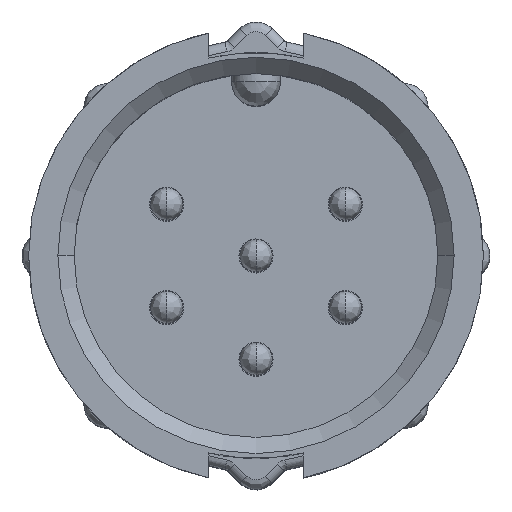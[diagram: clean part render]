
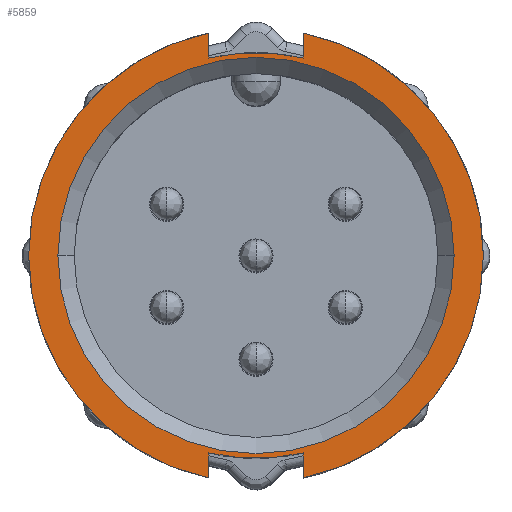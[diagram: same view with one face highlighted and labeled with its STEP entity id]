
A CAD part, top view. The second image highlights one B-rep face of the part: STEP entity #5859.
In plain terms, the highlighted planar face has unit normal (0, 0, 1).
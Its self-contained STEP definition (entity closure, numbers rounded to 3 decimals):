
#233 = CARTESIAN_POINT ( 'NONE',  ( 1.45, 0., 0. ) ) ;
#306 = EDGE_LOOP ( 'NONE', ( #16290, #14472, #7985, #14876, #1186, #8701, #2536, #5779 ) ) ;
#359 = CARTESIAN_POINT ( 'NONE',  ( -7.286, -7.122, 0. ) ) ;
#431 = VERTEX_POINT ( 'NONE', #9544 ) ;
#520 = CIRCLE ( 'NONE', #4874, 7. ) ;
#560 = EDGE_CURVE ( 'NONE', #16097, #7736, #9177, .T. ) ;
#873 = VECTOR ( 'NONE', #8069, 1000. ) ;
#929 = DIRECTION ( 'NONE',  ( 0., 0., -1. ) ) ;
#1178 = CARTESIAN_POINT ( 'NONE',  ( -1.45, 6.079, 0. ) ) ;
#1186 = ORIENTED_EDGE ( 'NONE', *, *, #8258, .F. ) ;
#1382 = CARTESIAN_POINT ( 'NONE',  ( 0., 0., 0. ) ) ;
#1529 = DIRECTION ( 'NONE',  ( 0., -1., 0. ) ) ;
#1678 = DIRECTION ( 'NONE',  ( 0., 0., 1. ) ) ;
#1995 = CIRCLE ( 'NONE', #15607, 6.1 ) ;
#2206 = CARTESIAN_POINT ( 'NONE',  ( 0., 0., 0. ) ) ;
#2362 = ORIENTED_EDGE ( 'NONE', *, *, #10158, .F. ) ;
#2497 = DIRECTION ( 'NONE',  ( 1., 0., 0. ) ) ;
#2536 = ORIENTED_EDGE ( 'NONE', *, *, #9440, .F. ) ;
#2650 = AXIS2_PLACEMENT_3D ( 'NONE', #3231, #7140, #12361 ) ;
#2952 = EDGE_CURVE ( 'NONE', #9916, #6370, #10953, .T. ) ;
#3073 = VECTOR ( 'NONE', #4719, 1000. ) ;
#3176 = CARTESIAN_POINT ( 'NONE',  ( 6.1, 0., 0. ) ) ;
#3186 = CARTESIAN_POINT ( 'NONE',  ( -1.45, 0., 0. ) ) ;
#3231 = CARTESIAN_POINT ( 'NONE',  ( 0., 0., 0. ) ) ;
#3509 = CIRCLE ( 'NONE', #11692, 6.1 ) ;
#3585 = DIRECTION ( 'NONE',  ( 0., 1., 0. ) ) ;
#3774 = DIRECTION ( 'NONE',  ( 0., 0., -1. ) ) ;
#4209 = CARTESIAN_POINT ( 'NONE',  ( -6.1, 0., 0. ) ) ;
#4284 = FACE_OUTER_BOUND ( 'NONE', #306, .T. ) ;
#4334 = LINE ( 'NONE', #233, #873 ) ;
#4464 = CARTESIAN_POINT ( 'NONE',  ( 1.45, 6.079, 0. ) ) ;
#4719 = DIRECTION ( 'NONE',  ( 0., -1., 0. ) ) ;
#4737 = CIRCLE ( 'NONE', #6077, 6.25 ) ;
#4831 = CARTESIAN_POINT ( 'NONE',  ( -1.45, -6.079, 0. ) ) ;
#4855 = EDGE_CURVE ( 'NONE', #7736, #8710, #10832, .T. ) ;
#4874 = AXIS2_PLACEMENT_3D ( 'NONE', #1382, #3774, #2497 ) ;
#4945 = DIRECTION ( 'NONE',  ( 1., 0., 0. ) ) ;
#5289 = CARTESIAN_POINT ( 'NONE',  ( 0., 0., 0. ) ) ;
#5553 = DIRECTION ( 'NONE',  ( 1., 0., 0. ) ) ;
#5779 = ORIENTED_EDGE ( 'NONE', *, *, #2952, .F. ) ;
#5859 = ADVANCED_FACE ( 'NONE', ( #9399, #4284 ), #9658, .T. ) ;
#6077 = AXIS2_PLACEMENT_3D ( 'NONE', #2206, #929, #11512 ) ;
#6370 = VERTEX_POINT ( 'NONE', #1178 ) ;
#6463 = EDGE_CURVE ( 'NONE', #7790, #16097, #4334, .T. ) ;
#7128 = AXIS2_PLACEMENT_3D ( 'NONE', #359, #13150, #5553 ) ;
#7140 = DIRECTION ( 'NONE',  ( 0., 0., -1. ) ) ;
#7736 = VERTEX_POINT ( 'NONE', #4831 ) ;
#7790 = VERTEX_POINT ( 'NONE', #15833 ) ;
#7914 = DIRECTION ( 'NONE',  ( 1., 0., 0. ) ) ;
#7985 = ORIENTED_EDGE ( 'NONE', *, *, #560, .F. ) ;
#8069 = DIRECTION ( 'NONE',  ( 0., 1., 0. ) ) ;
#8186 = EDGE_CURVE ( 'NONE', #9963, #431, #11353, .T. ) ;
#8258 = EDGE_CURVE ( 'NONE', #431, #7790, #16546, .T. ) ;
#8489 = CARTESIAN_POINT ( 'NONE',  ( -1.45, -6.848, 0. ) ) ;
#8701 = ORIENTED_EDGE ( 'NONE', *, *, #8186, .F. ) ;
#8710 = VERTEX_POINT ( 'NONE', #8489 ) ;
#8951 = DIRECTION ( 'NONE',  ( 0., 0., 1. ) ) ;
#9173 = DIRECTION ( 'NONE',  ( 1., 0., 0. ) ) ;
#9177 = CIRCLE ( 'NONE', #2650, 6.25 ) ;
#9268 = VERTEX_POINT ( 'NONE', #4209 ) ;
#9399 = FACE_BOUND ( 'NONE', #13400, .T. ) ;
#9440 = EDGE_CURVE ( 'NONE', #6370, #9963, #4737, .T. ) ;
#9544 = CARTESIAN_POINT ( 'NONE',  ( 1.45, 6.848, 0. ) ) ;
#9658 = PLANE ( 'NONE',  #7128 ) ;
#9820 = EDGE_CURVE ( 'NONE', #8710, #9916, #520, .T. ) ;
#9916 = VERTEX_POINT ( 'NONE', #11967 ) ;
#9963 = VERTEX_POINT ( 'NONE', #4464 ) ;
#10158 = EDGE_CURVE ( 'NONE', #9268, #16702, #3509, .T. ) ;
#10287 = CARTESIAN_POINT ( 'NONE',  ( 1.45, -6.079, 0. ) ) ;
#10532 = VECTOR ( 'NONE', #3585, 1000. ) ;
#10832 = LINE ( 'NONE', #16036, #11825 ) ;
#10953 = LINE ( 'NONE', #3186, #3073 ) ;
#11353 = LINE ( 'NONE', #11686, #10532 ) ;
#11436 = CARTESIAN_POINT ( 'NONE',  ( 0., 0., 0. ) ) ;
#11512 = DIRECTION ( 'NONE',  ( 0., -1., 0. ) ) ;
#11686 = CARTESIAN_POINT ( 'NONE',  ( 1.45, 0., 0. ) ) ;
#11692 = AXIS2_PLACEMENT_3D ( 'NONE', #5289, #8951, #7914 ) ;
#11825 = VECTOR ( 'NONE', #1529, 1000. ) ;
#11967 = CARTESIAN_POINT ( 'NONE',  ( -1.45, 6.848, 0. ) ) ;
#12361 = DIRECTION ( 'NONE',  ( 0., -1., 0. ) ) ;
#12984 = AXIS2_PLACEMENT_3D ( 'NONE', #11436, #16735, #4945 ) ;
#13150 = DIRECTION ( 'NONE',  ( 0., 0., 1. ) ) ;
#13400 = EDGE_LOOP ( 'NONE', ( #2362, #14291 ) ) ;
#13651 = EDGE_CURVE ( 'NONE', #16702, #9268, #1995, .T. ) ;
#14291 = ORIENTED_EDGE ( 'NONE', *, *, #13651, .F. ) ;
#14472 = ORIENTED_EDGE ( 'NONE', *, *, #4855, .F. ) ;
#14648 = CARTESIAN_POINT ( 'NONE',  ( 0., 0., 0. ) ) ;
#14876 = ORIENTED_EDGE ( 'NONE', *, *, #6463, .F. ) ;
#15607 = AXIS2_PLACEMENT_3D ( 'NONE', #14648, #1678, #9173 ) ;
#15833 = CARTESIAN_POINT ( 'NONE',  ( 1.45, -6.848, 0. ) ) ;
#16036 = CARTESIAN_POINT ( 'NONE',  ( -1.45, 0., 0. ) ) ;
#16097 = VERTEX_POINT ( 'NONE', #10287 ) ;
#16290 = ORIENTED_EDGE ( 'NONE', *, *, #9820, .F. ) ;
#16546 = CIRCLE ( 'NONE', #12984, 7. ) ;
#16702 = VERTEX_POINT ( 'NONE', #3176 ) ;
#16735 = DIRECTION ( 'NONE',  ( 0., 0., -1. ) ) ;
